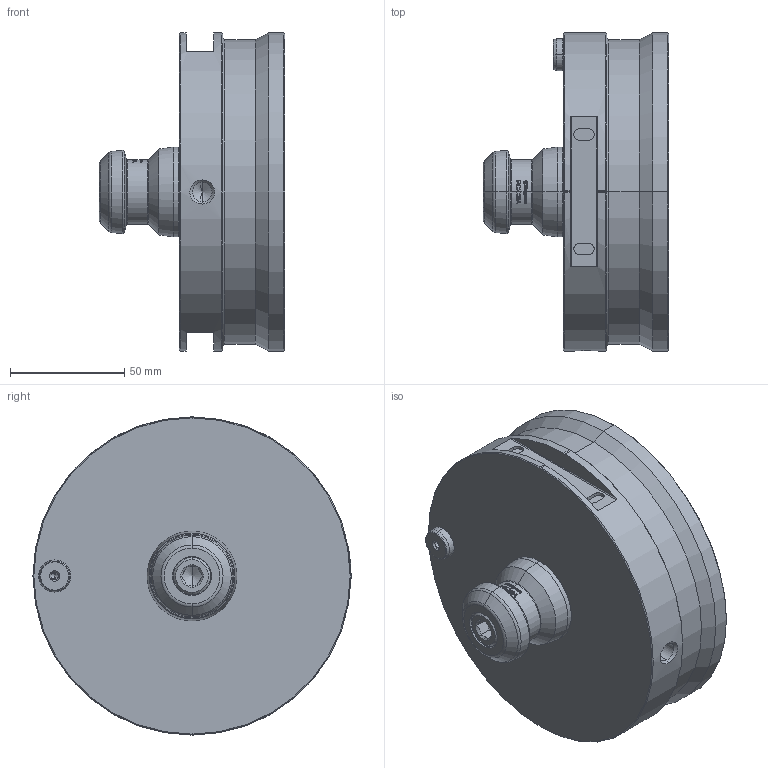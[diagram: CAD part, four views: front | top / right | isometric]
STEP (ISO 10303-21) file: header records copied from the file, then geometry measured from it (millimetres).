
FILE_DESCRIPTION (( 'STEP AP203' ), '1' );
FILE_NAME ('61P296289.STEP', '2024-04-26T07:10:09', ( '' ), ( '' ), 'SwSTEP 2.0', 'SolidWorks 2022', '' );
FILE_SCHEMA (( 'CONFIG_CONTROL_DESIGN' ));
Length unit declared in the file: millimetre
Products named in the file (5): 61P864277; 61P296289; 61P493325; 0030110045; 61P293306
Assembly tree (4 placements, depth 2):
  61P296289
    61P864277
    61P293306
    61P493325
    0030110045
Bounding box: 81 x 139 x 139 mm (x, y, z)
Volume: 460680.7 mm3; surface area: 79220.7 mm2
Topology: 4 solids, 4 shells, 413 faces, 1670 edges, 1311 vertices
Faces by surface type: plane 144, cylinder 95, cone 84, bspline 72, torus 18
Entity records: 21732 total; most frequent: CARTESIAN_POINT 8971, ORIENTED_EDGE 3312, DIRECTION 1879, EDGE_CURVE 1656, VERTEX_POINT 1311, AXIS2_PLACEMENT_3D 660, LINE 559, VECTOR 559
